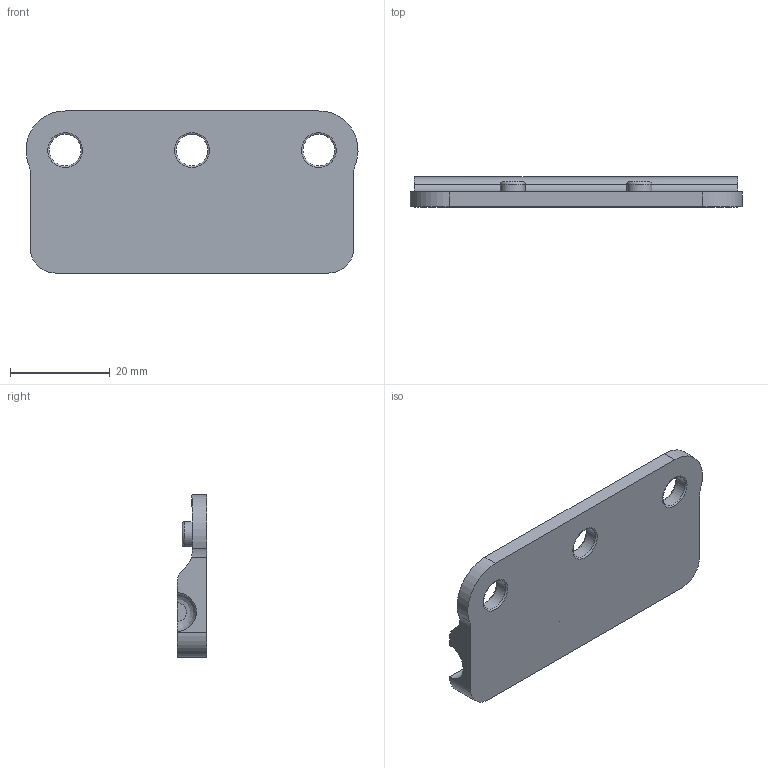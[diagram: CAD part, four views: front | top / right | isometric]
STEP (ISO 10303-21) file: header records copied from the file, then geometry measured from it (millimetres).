
FILE_DESCRIPTION(/* description */ (''),/* implementation_level */ '2;1');
FILE_NAME(/* name */ 'lower_holder_SMALL_BORE_V3.step',/* time_stamp */ '2023-02-20T17:25:05-06:00',/* author */ (''),/* organization */ (''),/* preprocessor_version */ 'ST-DEVELOPER v19.2',/* originating_system */ 'Autodesk Translation Framework v11.17.0.187',/* authorisation */ '');
FILE_SCHEMA (('AUTOMOTIVE_DESIGN { 1 0 10303 214 3 1 1 }'));
Length unit declared in the file: millimetre
Products named in the file (1): lower_holder
Bounding box: 66.49 x 6 x 32.47 mm (x, y, z)
Volume: 7868.2 mm3; surface area: 5441.1 mm2
Topology: 1 solids, 1 shells, 38 faces, 102 edges, 68 vertices
Faces by surface type: cylinder 16, plane 13, torus 8, bspline 1
Full cylindrical faces by diameter (mm): 5 x2, 6.35 x3
Entity records: 1284 total; most frequent: DIRECTION 237, CARTESIAN_POINT 229, ORIENTED_EDGE 204, EDGE_CURVE 102, AXIS2_PLACEMENT_3D 99, VERTEX_POINT 68, CIRCLE 61, EDGE_LOOP 46
